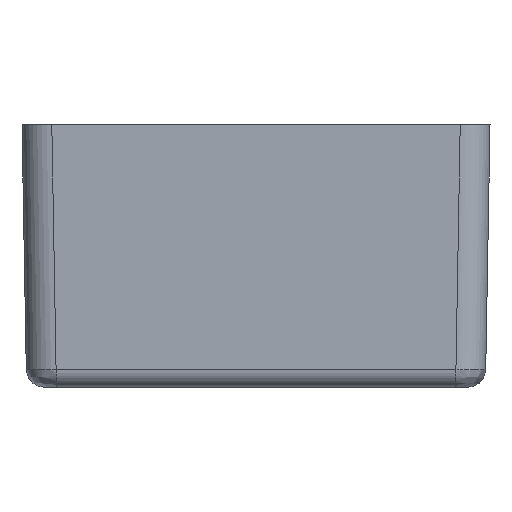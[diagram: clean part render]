
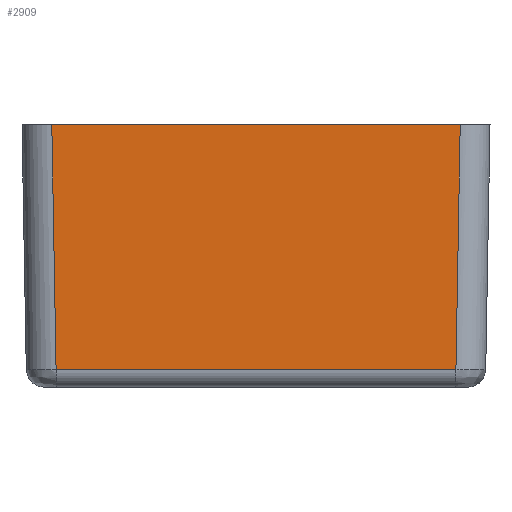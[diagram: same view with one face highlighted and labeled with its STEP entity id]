
A CAD part, left-side view. The second image highlights one B-rep face of the part: STEP entity #2909.
In plain terms, the highlighted planar face has unit normal (-1, 0, -0.018).
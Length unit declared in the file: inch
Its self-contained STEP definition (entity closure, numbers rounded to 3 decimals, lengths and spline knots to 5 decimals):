
#1673=CARTESIAN_POINT('',(-2.55,0.68502,0.0));
#1674=VERTEX_POINT('',#1673);
#1682=CARTESIAN_POINT('',(-2.55,-0.68502,0.0));
#1683=VERTEX_POINT('',#1682);
#1684=CARTESIAN_POINT('',(-2.55,-0.68502,0.0));
#1685=DIRECTION('',(0.0,1.0,0.0));
#1686=VECTOR('',#1685,1.37003);
#1687=LINE('',#1684,#1686);
#1688=EDGE_CURVE('',#1683,#1674,#1687,.T.);
#2488=CARTESIAN_POINT('',(-2.53567,0.67068,-0.82105));
#2489=VERTEX_POINT('',#2488);
#2540=CARTESIAN_POINT('',(-2.53567,0.67068,-0.82105));
#2541=DIRECTION('',(-0.017,0.017,1.));
#2542=VECTOR('',#2541,0.8213);
#2543=LINE('',#2540,#2542);
#2544=EDGE_CURVE('',#2489,#1674,#2543,.T.);
#2586=CARTESIAN_POINT('',(-2.53567,-0.67068,-0.82105));
#2587=VERTEX_POINT('',#2586);
#2620=CARTESIAN_POINT('',(-2.55,-0.68502,0.));
#2621=DIRECTION('',(0.017,0.017,-1.));
#2622=VECTOR('',#2621,0.8213);
#2623=LINE('',#2620,#2622);
#2624=EDGE_CURVE('',#1683,#2587,#2623,.T.);
#2642=CARTESIAN_POINT('',(-2.53567,-0.67068,-0.82105));
#2643=DIRECTION('',(0.0,1.0,0.0));
#2644=VECTOR('',#2643,1.34137);
#2645=LINE('',#2642,#2644);
#2646=EDGE_CURVE('',#2587,#2489,#2645,.T.);
#2898=CARTESIAN_POINT('',(-2.55,0.785,0.0));
#2899=DIRECTION('',(-1.,0.,-0.017));
#2900=DIRECTION('',(0.0,1.0,0.0));
#2901=AXIS2_PLACEMENT_3D('',#2898,#2899,#2900);
#2902=PLANE('',#2901);
#2903=ORIENTED_EDGE('',*,*,#2544,.F.);
#2904=ORIENTED_EDGE('',*,*,#2646,.F.);
#2905=ORIENTED_EDGE('',*,*,#2624,.F.);
#2906=ORIENTED_EDGE('',*,*,#1688,.T.);
#2907=EDGE_LOOP('',(#2903,#2904,#2905,#2906));
#2908=FACE_OUTER_BOUND('',#2907,.T.);
#2909=ADVANCED_FACE('',(#2908),#2902,.T.);
